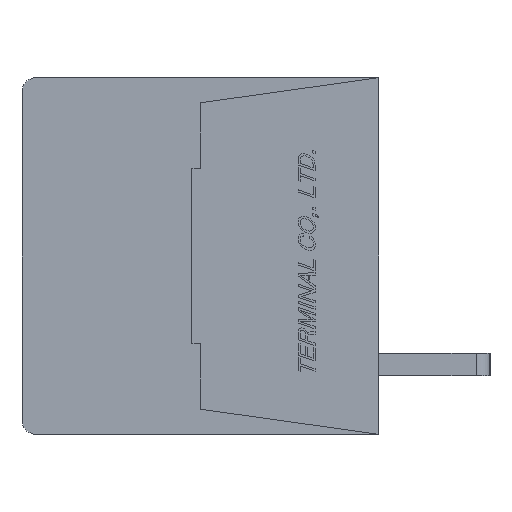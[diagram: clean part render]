
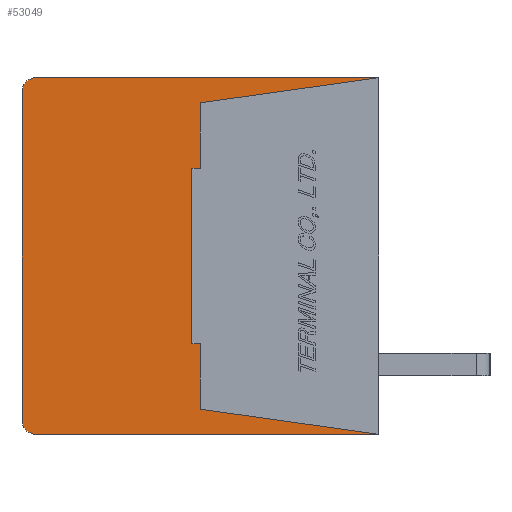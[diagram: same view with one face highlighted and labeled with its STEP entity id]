
A CAD part, left-side view. The second image highlights one B-rep face of the part: STEP entity #53049.
In plain terms, the highlighted planar face has unit normal (-1, 0, 0).
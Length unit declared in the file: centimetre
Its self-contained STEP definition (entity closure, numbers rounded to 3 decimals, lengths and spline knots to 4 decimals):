
#2708=CIRCLE('',#90879,0.05);
#2709=CIRCLE('',#90882,0.05);
#4761=VERTEX_POINT('',#73741);
#4762=VERTEX_POINT('',#73743);
#4763=VERTEX_POINT('',#73747);
#4764=VERTEX_POINT('',#73751);
#4765=VERTEX_POINT('',#73755);
#4766=VERTEX_POINT('',#73759);
#4767=VERTEX_POINT('',#73762);
#4768=VERTEX_POINT('',#73764);
#4769=VERTEX_POINT('',#73766);
#4770=VERTEX_POINT('',#73768);
#4771=VERTEX_POINT('',#73770);
#4772=VERTEX_POINT('',#73772);
#10315=VECTOR('',#61561,1.);
#10319=VECTOR('',#61570,1.);
#10322=VECTOR('',#61578,1.);
#10323=VECTOR('',#61579,1.);
#10324=VECTOR('',#61580,1.);
#10325=VECTOR('',#61581,1.);
#10326=VECTOR('',#61582,1.);
#10327=VECTOR('',#61583,1.);
#10328=VECTOR('',#61584,1.);
#10329=VECTOR('',#61585,1.);
#16551=LINE('',#73742,#10315);
#16555=LINE('',#73752,#10319);
#16558=LINE('',#73760,#10322);
#16559=LINE('',#73761,#10323);
#16560=LINE('',#73763,#10324);
#16561=LINE('',#73765,#10325);
#16562=LINE('',#73767,#10326);
#16563=LINE('',#73769,#10327);
#16564=LINE('',#73771,#10328);
#16565=LINE('',#73773,#10329);
#23527=EDGE_CURVE('',#4762,#4761,#16551,.T.);
#23530=EDGE_CURVE('',#4763,#4761,#2708,.T.);
#23532=EDGE_CURVE('',#4763,#4764,#16555,.T.);
#23534=EDGE_CURVE('',#4765,#4764,#2709,.T.);
#23536=EDGE_CURVE('',#4765,#4766,#16558,.T.);
#23537=EDGE_CURVE('',#4767,#4762,#16559,.T.);
#23538=EDGE_CURVE('',#4766,#4768,#16560,.T.);
#23539=EDGE_CURVE('',#4768,#4769,#16561,.T.);
#23540=EDGE_CURVE('',#4769,#4770,#16562,.T.);
#23541=EDGE_CURVE('',#4770,#4771,#16563,.T.);
#23542=EDGE_CURVE('',#4771,#4772,#16564,.T.);
#23543=EDGE_CURVE('',#4772,#4767,#16565,.T.);
#34165=ORIENTED_EDGE('',*,*,#23537,.T.);
#34166=ORIENTED_EDGE('',*,*,#23527,.T.);
#34167=ORIENTED_EDGE('',*,*,#23530,.F.);
#34168=ORIENTED_EDGE('',*,*,#23532,.T.);
#34169=ORIENTED_EDGE('',*,*,#23534,.F.);
#34170=ORIENTED_EDGE('',*,*,#23536,.T.);
#34171=ORIENTED_EDGE('',*,*,#23538,.T.);
#34172=ORIENTED_EDGE('',*,*,#23539,.T.);
#34173=ORIENTED_EDGE('',*,*,#23540,.T.);
#34174=ORIENTED_EDGE('',*,*,#23541,.T.);
#34175=ORIENTED_EDGE('',*,*,#23542,.T.);
#34176=ORIENTED_EDGE('',*,*,#23543,.T.);
#46193=EDGE_LOOP('',(#34165,#34166,#34167,#34168,#34169,#34170,#34171,#34172,
#34173,#34174,#34175,#34176));
#49693=FACE_BOUND('',#46193,.T.);
#53049=ADVANCED_FACE('',(#49693),#55956,.F.);
#55956=PLANE('',#90876);
#61447=DIRECTION('',(1.,0.,0.));
#61561=DIRECTION('',(0.,1.,0.));
#61566=DIRECTION('',(1.,0.,0.));
#61567=DIRECTION('',(0.,0.,-0.05));
#61570=DIRECTION('',(0.,0.,-1.));
#61574=DIRECTION('',(1.,0.,0.));
#61575=DIRECTION('',(0.,0.,-0.05));
#61578=DIRECTION('',(0.,-1.,0.));
#61579=DIRECTION('',(0.,-0.99,0.139));
#61580=DIRECTION('',(0.,0.99,0.139));
#61581=DIRECTION('',(0.,0.,1.));
#61582=DIRECTION('',(0.,1.,0.));
#61583=DIRECTION('',(0.,0.,1.));
#61584=DIRECTION('',(0.,-1.,0.));
#61585=DIRECTION('',(0.,0.,1.));
#73308=CARTESIAN_POINT('',(-0.889,0.6345,0.));
#73741=CARTESIAN_POINT('',(-0.889,1.23,0.64));
#73742=CARTESIAN_POINT('',(-0.889,0.,0.64));
#73743=CARTESIAN_POINT('',(-0.889,0.,0.64));
#73747=CARTESIAN_POINT('',(-0.889,1.28,0.59));
#73748=CARTESIAN_POINT('',(-0.889,1.23,0.59));
#73751=CARTESIAN_POINT('',(-0.889,1.28,-0.59));
#73752=CARTESIAN_POINT('',(-0.889,1.28,0.59));
#73755=CARTESIAN_POINT('',(-0.889,1.23,-0.64));
#73756=CARTESIAN_POINT('',(-0.889,1.23,-0.59));
#73759=CARTESIAN_POINT('',(-0.889,0.,-0.64));
#73760=CARTESIAN_POINT('',(-0.889,1.23,-0.64));
#73761=CARTESIAN_POINT('',(-0.889,0.64,0.55));
#73762=CARTESIAN_POINT('',(-0.889,0.64,0.55));
#73763=CARTESIAN_POINT('',(-0.889,0.,-0.64));
#73764=CARTESIAN_POINT('',(-0.889,0.64,-0.55));
#73765=CARTESIAN_POINT('',(-0.889,0.64,-0.55));
#73766=CARTESIAN_POINT('',(-0.889,0.64,-0.315));
#73767=CARTESIAN_POINT('',(-0.889,0.64,-0.315));
#73768=CARTESIAN_POINT('',(-0.889,0.67,-0.315));
#73769=CARTESIAN_POINT('',(-0.889,0.67,-0.315));
#73770=CARTESIAN_POINT('',(-0.889,0.67,0.315));
#73771=CARTESIAN_POINT('',(-0.889,0.67,0.315));
#73772=CARTESIAN_POINT('',(-0.889,0.64,0.315));
#73773=CARTESIAN_POINT('',(-0.889,0.64,0.315));
#90876=AXIS2_PLACEMENT_3D('',#73308,#61447,$);
#90879=AXIS2_PLACEMENT_3D('',#73748,#61566,#61567);
#90882=AXIS2_PLACEMENT_3D('',#73756,#61574,#61575);
